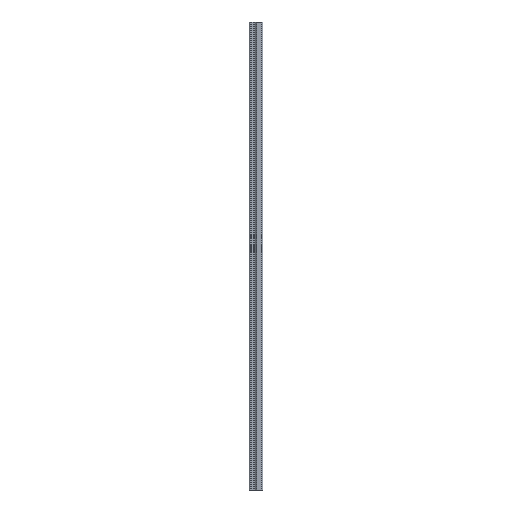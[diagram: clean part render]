
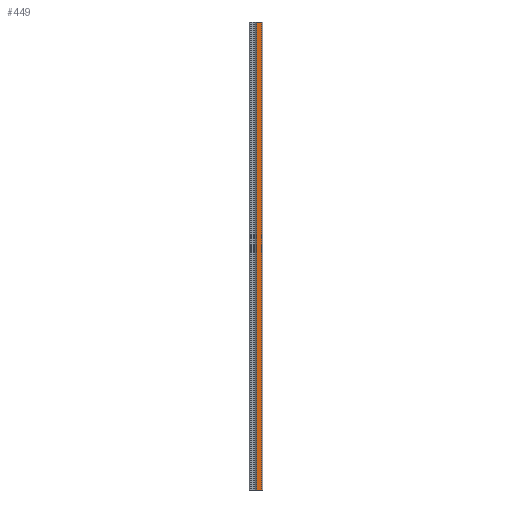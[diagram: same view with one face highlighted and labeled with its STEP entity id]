
A CAD part, left-side view. The second image highlights one B-rep face of the part: STEP entity #449.
In plain terms, the highlighted planar face has unit normal (-1, 0, 0).
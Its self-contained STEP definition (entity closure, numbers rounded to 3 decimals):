
#155 = DIRECTION ( 'NONE',  ( 0., 1., 0. ) ) ;
#159 = CARTESIAN_POINT ( 'NONE',  ( -10., 1., -290. ) ) ;
#190 = CARTESIAN_POINT ( 'NONE',  ( -10., 16.3, 290. ) ) ;
#239 = ORIENTED_EDGE ( 'NONE', *, *, #1797, .T. ) ;
#340 = LINE ( 'NONE', #1554, #906 ) ;
#349 = ORIENTED_EDGE ( 'NONE', *, *, #1095, .F. ) ;
#369 = VECTOR ( 'NONE', #2233, 1000. ) ;
#449 = ADVANCED_FACE ( 'NONE', ( #973 ), #2019, .F. ) ;
#465 = EDGE_CURVE ( 'NONE', #531, #714, #706, .T. ) ;
#513 = EDGE_LOOP ( 'NONE', ( #239, #655, #1891, #349 ) ) ;
#531 = VERTEX_POINT ( 'NONE', #753 ) ;
#655 = ORIENTED_EDGE ( 'NONE', *, *, #1176, .T. ) ;
#706 = LINE ( 'NONE', #190, #369 ) ;
#714 = VERTEX_POINT ( 'NONE', #1576 ) ;
#753 = CARTESIAN_POINT ( 'NONE',  ( -10., 7.3, 290. ) ) ;
#906 = VECTOR ( 'NONE', #1916, 1000. ) ;
#973 = FACE_OUTER_BOUND ( 'NONE', #513, .T. ) ;
#987 = VERTEX_POINT ( 'NONE', #2230 ) ;
#988 = CARTESIAN_POINT ( 'NONE',  ( -10., 16.3, -290. ) ) ;
#1027 = AXIS2_PLACEMENT_3D ( 'NONE', #1478, #2408, #155 ) ;
#1095 = EDGE_CURVE ( 'NONE', #987, #531, #2372, .T. ) ;
#1176 = EDGE_CURVE ( 'NONE', #2189, #714, #340, .T. ) ;
#1357 = VECTOR ( 'NONE', #2073, 1000. ) ;
#1478 = CARTESIAN_POINT ( 'NONE',  ( -10., 16.3, 290. ) ) ;
#1524 = VECTOR ( 'NONE', #1564, 1000. ) ;
#1554 = CARTESIAN_POINT ( 'NONE',  ( -10., 1., 290. ) ) ;
#1564 = DIRECTION ( 'NONE',  ( 0., -1., 0. ) ) ;
#1576 = CARTESIAN_POINT ( 'NONE',  ( -10., 1., 290. ) ) ;
#1797 = EDGE_CURVE ( 'NONE', #987, #2189, #2023, .T. ) ;
#1891 = ORIENTED_EDGE ( 'NONE', *, *, #465, .F. ) ;
#1916 = DIRECTION ( 'NONE',  ( 0., 0., 1. ) ) ;
#2019 = PLANE ( 'NONE',  #1027 ) ;
#2023 = LINE ( 'NONE', #988, #1524 ) ;
#2073 = DIRECTION ( 'NONE',  ( 0., 0., 1. ) ) ;
#2087 = CARTESIAN_POINT ( 'NONE',  ( -10., 7.3, -290. ) ) ;
#2189 = VERTEX_POINT ( 'NONE', #159 ) ;
#2230 = CARTESIAN_POINT ( 'NONE',  ( -10., 7.3, -290. ) ) ;
#2233 = DIRECTION ( 'NONE',  ( 0., -1., 0. ) ) ;
#2372 = LINE ( 'NONE', #2087, #1357 ) ;
#2408 = DIRECTION ( 'NONE',  ( 1., 0., 0. ) ) ;
